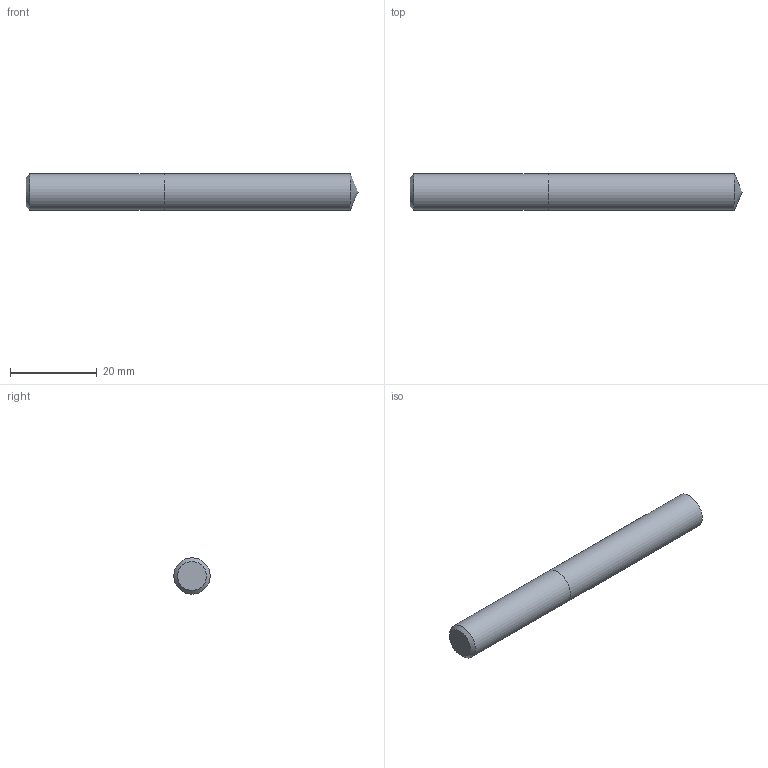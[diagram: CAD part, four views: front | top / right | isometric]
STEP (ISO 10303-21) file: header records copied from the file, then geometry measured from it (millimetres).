
FILE_DESCRIPTION (( 'STEP AP214' ), '1' );
FILE_NAME ('03-2420.STEP', '2022-06-03T07:32:15', ( 'USER' ), ( '' ), 'SwSTEP 2.0', 'SolidWorks 2018', '' );
FILE_SCHEMA (( 'AUTOMOTIVE_DESIGN' ));
Length unit declared in the file: inch
Products named in the file (1): 03-2420
Bounding box: 76.34 x 8.33 x 8.33 mm (x, y, z)
Volume: 4093.4 mm3; surface area: 2162.6 mm2
Topology: 2 solids, 2 shells, 7 faces, 11 edges, 7 vertices
Faces by surface type: plane 3, cylinder 2, cone 2
Full cylindrical faces by diameter (mm): 8.334 x2
Entity records: 214 total; most frequent: DIRECTION 26, CARTESIAN_POINT 18, AXIS2_PLACEMENT_3D 13, EDGE_LOOP 10, ORIENTED_EDGE 10, FACE_OUTER_BOUND 9, DIMENSIONAL_EXPONENTS 7, ADVANCED_FACE 7
